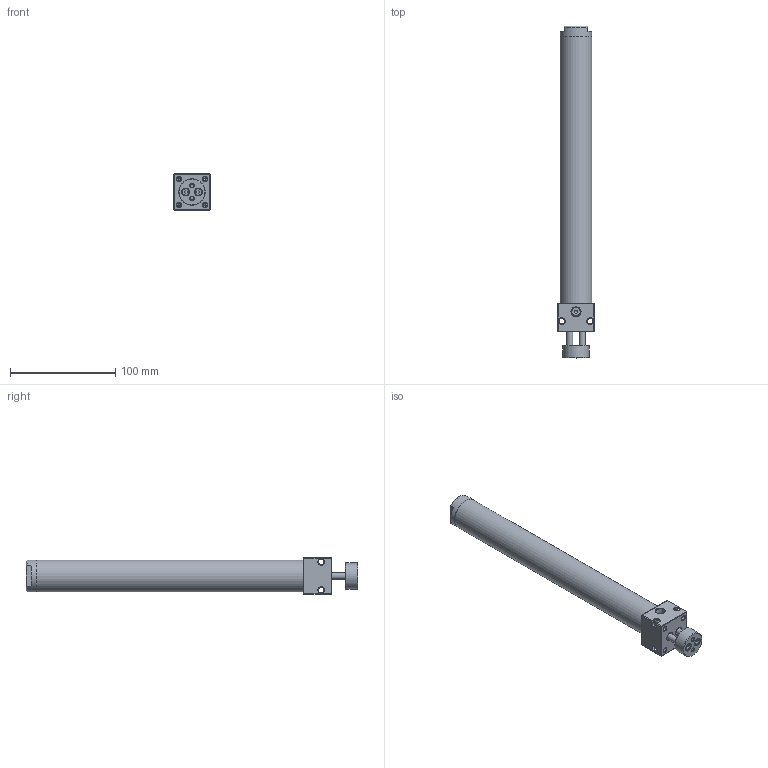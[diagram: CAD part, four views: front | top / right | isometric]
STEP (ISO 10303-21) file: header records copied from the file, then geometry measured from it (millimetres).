
FILE_DESCRIPTION((''),'2;1');
FILE_NAME('I:\3D電子目錄\氣缸\DBT\DBT\DBT25\DBT25x200.stp','2007-10-08T08:57:38',('Administrator'),(''),'Autodesk Inventor 2008','Autodesk Inventor 2008','');
FILE_SCHEMA(('AUTOMOTIVE_DESIGN { 1 0 10303 214 1 1 1 1 }'));
Length unit declared in the file: millimetre
Products named in the file (1): DBT25x200
Bounding box: 35 x 316 x 35 mm (x, y, z)
Volume: 102375.3 mm3; surface area: 63818.2 mm2
Topology: 1 solids, 5 shells, 172 faces, 396 edges, 239 vertices
Faces by surface type: plane 57, bspline 54, cone 38, cylinder 23
Full cylindrical faces by diameter (mm): 3 x1, 3.4 x1, 4 x1, 6 x3, 6.5 x1, 7 x1, 8 x1, 9 x1, 16 x1, 23.8 x2, 25 x2, 25.8 x2, 27 x2, 27.2 x2, 30 x2
Entity records: 5091 total; most frequent: CARTESIAN_POINT 1849, DIRECTION 622, ORIENTED_EDGE 548, EDGE_LOOP 308, EDGE_CURVE 274, AXIS2_PLACEMENT_3D 265, VERTEX_POINT 212, FACE_OUTER_BOUND 172
